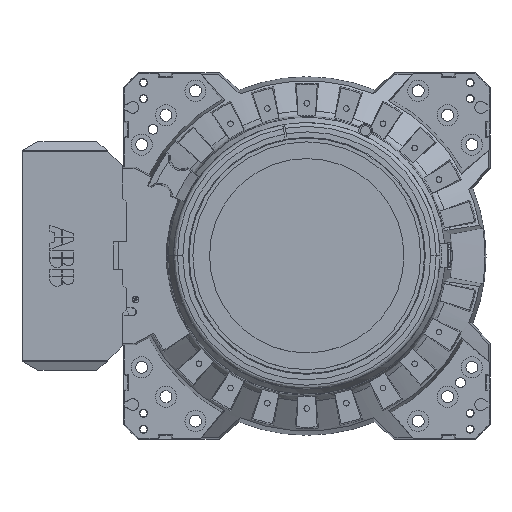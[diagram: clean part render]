
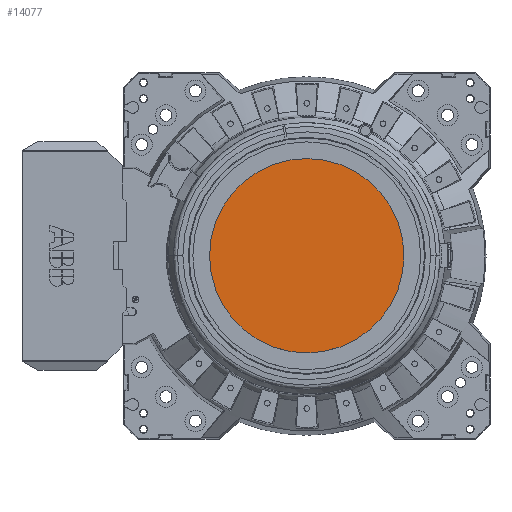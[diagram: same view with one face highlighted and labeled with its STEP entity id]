
A CAD part, top view. The second image highlights one B-rep face of the part: STEP entity #14077.
In plain terms, the highlighted planar face has unit normal (0, 0, 1).
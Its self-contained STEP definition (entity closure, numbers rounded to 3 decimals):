
#1599 = AXIS2_PLACEMENT_3D ( 'NONE', #22407, #6172, #25146 ) ;
#2951 = AXIS2_PLACEMENT_3D ( 'NONE', #25068, #8814, #27777 ) ;
#6172 = DIRECTION ( 'NONE',  ( 0., 0., -1. ) ) ;
#8814 = DIRECTION ( 'NONE',  ( 0., 0., -1. ) ) ;
#9172 = PLANE ( 'NONE',  #15121 ) ;
#9193 = VERTEX_POINT ( 'NONE', #25281 ) ;
#14077 = ADVANCED_FACE ( 'NONE', ( #23814 ), #9172, .T. ) ;
#14093 = ORIENTED_EDGE ( 'NONE', *, *, #17036, .F. ) ;
#14621 = DIRECTION ( 'NONE',  ( 0., -1., 0. ) ) ;
#15121 = AXIS2_PLACEMENT_3D ( 'NONE', #22710, #30868, #14621 ) ;
#15774 = ORIENTED_EDGE ( 'NONE', *, *, #16487, .F. ) ;
#16487 = EDGE_CURVE ( 'NONE', #29431, #9193, #17707, .T. ) ;
#17036 = EDGE_CURVE ( 'NONE', #9193, #29431, #23211, .T. ) ;
#17707 = CIRCLE ( 'NONE', #2951, 244. ) ;
#22407 = CARTESIAN_POINT ( 'NONE',  ( 0., 0., 380.9 ) ) ;
#22710 = CARTESIAN_POINT ( 'NONE',  ( 0., 0., 380.9 ) ) ;
#23211 = CIRCLE ( 'NONE', #1599, 244. ) ;
#23814 = FACE_OUTER_BOUND ( 'NONE', #28940, .T. ) ;
#25068 = CARTESIAN_POINT ( 'NONE',  ( 0., 0., 380.9 ) ) ;
#25146 = DIRECTION ( 'NONE',  ( 0., 1., 0. ) ) ;
#25281 = CARTESIAN_POINT ( 'NONE',  ( 0., 244., 380.9 ) ) ;
#27777 = DIRECTION ( 'NONE',  ( 0., 1., 0. ) ) ;
#28940 = EDGE_LOOP ( 'NONE', ( #14093, #15774 ) ) ;
#29431 = VERTEX_POINT ( 'NONE', #31540 ) ;
#30868 = DIRECTION ( 'NONE',  ( 0., 0., 1. ) ) ;
#31540 = CARTESIAN_POINT ( 'NONE',  ( 0., -244., 380.9 ) ) ;
